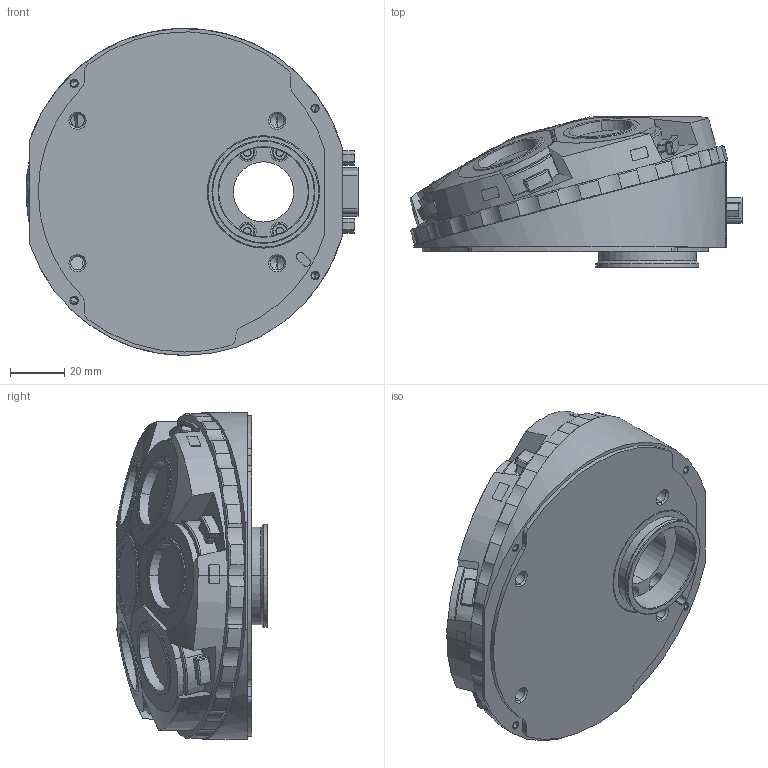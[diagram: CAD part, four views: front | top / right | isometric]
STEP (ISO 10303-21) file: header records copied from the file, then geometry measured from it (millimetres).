
FILE_DESCRIPTION (( 'STEP AP214' ), '1' );
FILE_NAME ('TI2-N-ND-E-ASI(B,M) ASSM (MEP59320-ASI)(CATALOG MODEL).STEP', '2025-07-23T17:59:24', ( '' ), ( '' ), 'SwSTEP 2.0', 'SolidWorks 2023', '' );
FILE_SCHEMA (( 'AUTOMOTIVE_DESIGN' ));
Length unit declared in the file: inch
Products named in the file (1): TI2-N-ND-E-ASI(B,M) ASSM (MEP59320-ASI)(CATALOG MODEL)
Bounding box: 122.46 x 55.96 x 120.58 mm (x, y, z)
Surface area: 90676.4 mm2 (no closed solid volume)
Topology: 0 solids, 35 shells, 1509 faces, 4156 edges, 2720 vertices
Faces by surface type: cylinder 847, plane 324, cone 209, bspline 108, torus 21
Entity records: 75796 total; most frequent: CARTESIAN_POINT 30633, ORIENTED_EDGE 7841, DIRECTION 6333, EDGE_CURVE 4096, VERTEX_POINT 2720, AXIS2_PLACEMENT_3D 2420, EDGE_LOOP 1645, ADVANCED_FACE 1509
